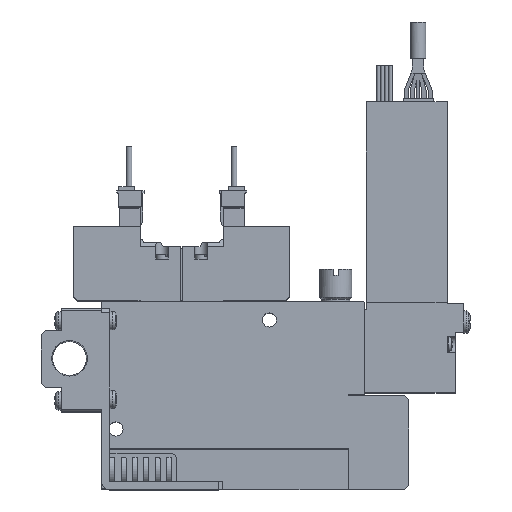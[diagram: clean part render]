
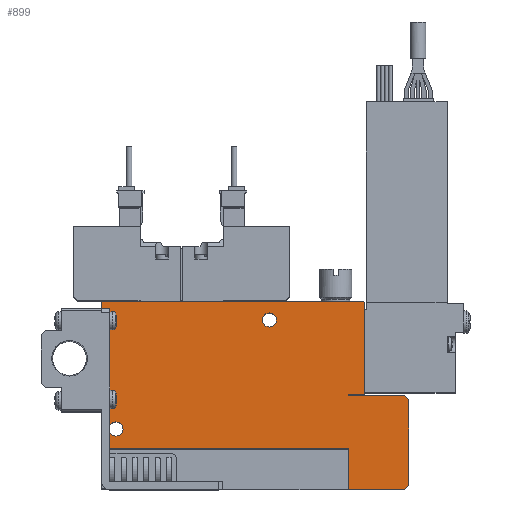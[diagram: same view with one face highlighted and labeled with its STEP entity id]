
A CAD part, top view. The second image highlights one B-rep face of the part: STEP entity #899.
In plain terms, the highlighted planar face has unit normal (0, 0, 1).
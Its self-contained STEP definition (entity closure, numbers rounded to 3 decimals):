
#899=ADVANCED_FACE('',(#2138,#2139,#2140),#2141,.F.);
#2138=FACE_OUTER_BOUND('',#3806,.T.);
#2139=FACE_BOUND('',#3807,.T.);
#2140=FACE_BOUND('',#3808,.T.);
#2141=PLANE('',#3809);
#3806=EDGE_LOOP('',(#8086,#8087,#8088,#8089,#8090,#8091,#8092,#8093,#8094,#8095,#8096,#8097,#8098,#8099));
#3807=EDGE_LOOP('',(#8100));
#3808=EDGE_LOOP('',(#8101));
#3809=AXIS2_PLACEMENT_3D('',#8102,#8103,#8104);
#8086=ORIENTED_EDGE('',*,*,#11352,.T.);
#8087=ORIENTED_EDGE('',*,*,#11584,.F.);
#8088=ORIENTED_EDGE('',*,*,#11595,.F.);
#8089=ORIENTED_EDGE('',*,*,#11610,.T.);
#8090=ORIENTED_EDGE('',*,*,#11348,.T.);
#8091=ORIENTED_EDGE('',*,*,#11611,.T.);
#8092=ORIENTED_EDGE('',*,*,#11612,.T.);
#8093=ORIENTED_EDGE('',*,*,#11613,.T.);
#8094=ORIENTED_EDGE('',*,*,#11614,.T.);
#8095=ORIENTED_EDGE('',*,*,#11487,.T.);
#8096=ORIENTED_EDGE('',*,*,#11615,.T.);
#8097=ORIENTED_EDGE('',*,*,#11616,.T.);
#8098=ORIENTED_EDGE('',*,*,#11444,.T.);
#8099=ORIENTED_EDGE('',*,*,#11617,.T.);
#8100=ORIENTED_EDGE('',*,*,#11618,.F.);
#8101=ORIENTED_EDGE('',*,*,#11619,.F.);
#8102=CARTESIAN_POINT('',(0.0,0.0,5.0));
#8103=DIRECTION('',(0.0,0.0,-1.0));
#8104=DIRECTION('',(0.0,-1.0,0.0));
#11348=EDGE_CURVE('',#13837,#13835,#13838,.T.);
#11352=EDGE_CURVE('',#13845,#13843,#13846,.T.);
#11444=EDGE_CURVE('',#14014,#14012,#14015,.T.);
#11487=EDGE_CURVE('',#14088,#14086,#14089,.T.);
#11584=EDGE_CURVE('',#14248,#13843,#14249,.T.);
#11595=EDGE_CURVE('',#14262,#14248,#14264,.T.);
#11610=EDGE_CURVE('',#14262,#13837,#14284,.T.);
#11611=EDGE_CURVE('',#13835,#14285,#14286,.T.);
#11612=EDGE_CURVE('',#14285,#14287,#14288,.T.);
#11613=EDGE_CURVE('',#14287,#14289,#14290,.T.);
#11614=EDGE_CURVE('',#14289,#14088,#14291,.T.);
#11615=EDGE_CURVE('',#14086,#14292,#14293,.T.);
#11616=EDGE_CURVE('',#14292,#14014,#14294,.T.);
#11617=EDGE_CURVE('',#14012,#13845,#14295,.T.);
#11618=EDGE_CURVE('',#14296,#14296,#14297,.T.);
#11619=EDGE_CURVE('',#14298,#14298,#14299,.T.);
#13835=VERTEX_POINT('',#17975);
#13837=VERTEX_POINT('',#17978);
#13838=LINE('',#17979,#17980);
#13843=VERTEX_POINT('',#17987);
#13845=VERTEX_POINT('',#17990);
#13846=LINE('',#17991,#17992);
#14012=VERTEX_POINT('',#18254);
#14014=VERTEX_POINT('',#18257);
#14015=LINE('',#18258,#18259);
#14086=VERTEX_POINT('',#18395);
#14088=VERTEX_POINT('',#18398);
#14089=LINE('',#18399,#18400);
#14248=VERTEX_POINT('',#18655);
#14249=LINE('',#18656,#18657);
#14262=VERTEX_POINT('',#18679);
#14264=LINE('',#18682,#18683);
#14284=LINE('',#18714,#18715);
#14285=VERTEX_POINT('',#18716);
#14286=LINE('',#18717,#18718);
#14287=VERTEX_POINT('',#18719);
#14288=LINE('',#18720,#18721);
#14289=VERTEX_POINT('',#18722);
#14290=LINE('',#18723,#18724);
#14291=LINE('',#18725,#18726);
#14292=VERTEX_POINT('',#18727);
#14293=LINE('',#18728,#18729);
#14294=LINE('',#18730,#18731);
#14295=LINE('',#18732,#18733);
#14296=VERTEX_POINT('',#18734);
#14297=CIRCLE('',#18735,1.75);
#14298=VERTEX_POINT('',#18736);
#14299=CIRCLE('',#18737,1.75);
#17975=CARTESIAN_POINT('',(76.0,1.0,5.0));
#17978=CARTESIAN_POINT('',(75.0,0.0,5.0));
#17979=CARTESIAN_POINT('',(75.0,0.0,5.0));
#17980=VECTOR('',#22213,1.0);
#17987=CARTESIAN_POINT('',(0.0,10.1,5.0));
#17990=CARTESIAN_POINT('',(0.0,46.4,5.0));
#17991=CARTESIAN_POINT('',(0.0,46.4,5.0));
#17992=VECTOR('',#22217,1.0);
#18254=CARTESIAN_POINT('',(0.2,46.6,5.0));
#18257=CARTESIAN_POINT('',(64.8,46.6,5.0));
#18258=CARTESIAN_POINT('',(64.8,46.6,5.0));
#18259=VECTOR('',#22346,1.0);
#18395=CARTESIAN_POINT('',(65.0,23.5,5.0));
#18398=CARTESIAN_POINT('',(61.0,23.5,5.0));
#18399=CARTESIAN_POINT('',(61.0,23.5,5.0));
#18400=VECTOR('',#22403,1.0);
#18655=CARTESIAN_POINT('',(61.1,10.1,5.0));
#18656=CARTESIAN_POINT('',(61.1,10.1,5.0));
#18657=VECTOR('',#22532,1.0);
#18679=CARTESIAN_POINT('',(61.1,0.0,5.0));
#18682=CARTESIAN_POINT('',(61.1,0.0,5.0));
#18683=VECTOR('',#22543,1.0);
#18714=CARTESIAN_POINT('',(0.0,0.0,5.0));
#18715=VECTOR('',#22564,1.0);
#18716=CARTESIAN_POINT('',(76.0,22.25,5.0));
#18717=CARTESIAN_POINT('',(76.0,1.0,5.0));
#18718=VECTOR('',#22565,1.0);
#18719=CARTESIAN_POINT('',(75.0,23.25,5.0));
#18720=CARTESIAN_POINT('',(76.0,22.25,5.0));
#18721=VECTOR('',#22566,1.0);
#18722=CARTESIAN_POINT('',(61.0,23.25,5.0));
#18723=CARTESIAN_POINT('',(75.0,23.25,5.0));
#18724=VECTOR('',#22567,1.0);
#18725=CARTESIAN_POINT('',(61.0,23.25,5.0));
#18726=VECTOR('',#22568,1.0);
#18727=CARTESIAN_POINT('',(65.0,46.4,5.0));
#18728=CARTESIAN_POINT('',(65.0,23.5,5.0));
#18729=VECTOR('',#22569,1.0);
#18730=CARTESIAN_POINT('',(65.0,46.4,5.0));
#18731=VECTOR('',#22570,1.0);
#18732=CARTESIAN_POINT('',(0.2,46.6,5.0));
#18733=VECTOR('',#22571,1.0);
#18734=CARTESIAN_POINT('',(5.25,15.0,5.0));
#18735=AXIS2_PLACEMENT_3D('',#22572,#22573,#22574);
#18736=CARTESIAN_POINT('',(43.25,42.0,5.0));
#18737=AXIS2_PLACEMENT_3D('',#22575,#22576,#22577);
#22213=DIRECTION('',(0.707,0.707,0.0));
#22217=DIRECTION('',(0.0,-1.0,0.0));
#22346=DIRECTION('',(-1.0,0.0,0.0));
#22403=DIRECTION('',(1.0,0.,0.0));
#22532=DIRECTION('',(-1.0,0.0,0.0));
#22543=DIRECTION('',(0.0,1.0,0.0));
#22564=DIRECTION('',(1.0,0.0,0.0));
#22565=DIRECTION('',(0.0,1.0,0.0));
#22566=DIRECTION('',(-0.707,0.707,0.0));
#22567=DIRECTION('',(-1.0,0.0,0.0));
#22568=DIRECTION('',(0.0,1.0,0.0));
#22569=DIRECTION('',(0.0,1.0,0.0));
#22570=DIRECTION('',(-0.707,0.707,0.0));
#22571=DIRECTION('',(-0.707,-0.707,0.0));
#22572=CARTESIAN_POINT('',(3.5,15.0,5.0));
#22573=DIRECTION('',(0.0,0.0,1.0));
#22574=DIRECTION('',(1.0,0.0,0.0));
#22575=CARTESIAN_POINT('',(41.5,42.0,5.0));
#22576=DIRECTION('',(0.0,0.0,1.0));
#22577=DIRECTION('',(1.0,0.0,0.0));
